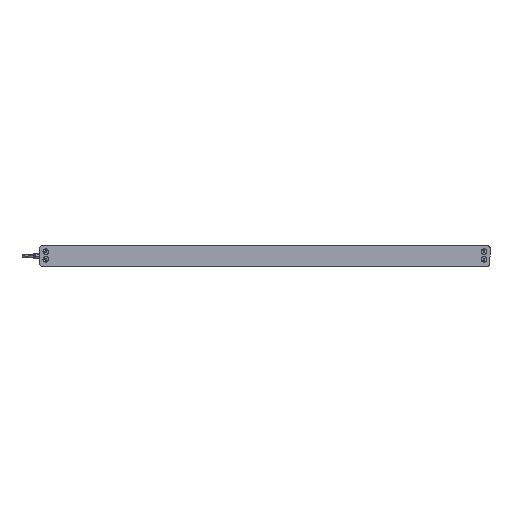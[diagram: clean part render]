
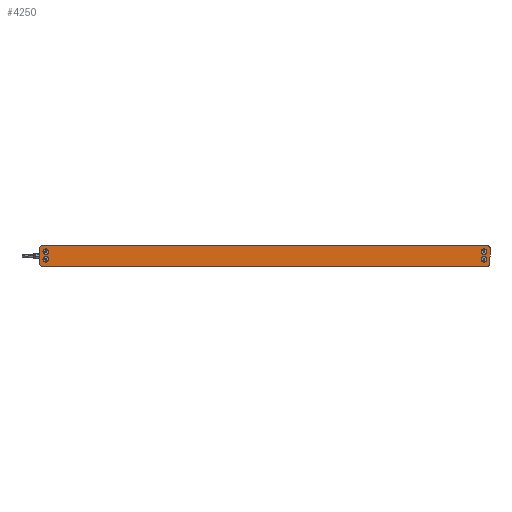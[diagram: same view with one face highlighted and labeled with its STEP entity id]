
A CAD part, left-side view. The second image highlights one B-rep face of the part: STEP entity #4250.
In plain terms, the highlighted planar face has unit normal (-1, 0, 0) as drawn and (0, 0, -1) by its records, which use the part's own axes.
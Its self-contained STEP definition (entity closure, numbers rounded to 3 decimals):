
#104 = CARTESIAN_POINT ( 'NONE',  ( -431.3, 8.5, 0. ) ) ;
#130 = AXIS2_PLACEMENT_3D ( 'NONE', #17774, #11665, #15936 ) ;
#801 = AXIS2_PLACEMENT_3D ( 'NONE', #14111, #3578, #6463 ) ;
#802 = DIRECTION ( 'NONE',  ( 0., 0., -1. ) ) ;
#873 = CARTESIAN_POINT ( 'NONE',  ( -439., 20., 0. ) ) ;
#874 = EDGE_CURVE ( 'NONE', #4305, #17773, #14058, .T. ) ;
#897 = FACE_OUTER_BOUND ( 'NONE', #10706, .T. ) ;
#949 = DIRECTION ( 'NONE',  ( -1., 0., 0. ) ) ;
#950 = EDGE_CURVE ( 'NONE', #10845, #1181, #2015, .T. ) ;
#1116 = CARTESIAN_POINT ( 'NONE',  ( 439., -16., 0. ) ) ;
#1132 = CARTESIAN_POINT ( 'NONE',  ( -443., 16., 0. ) ) ;
#1181 = VERTEX_POINT ( 'NONE', #17084 ) ;
#1705 = DIRECTION ( 'NONE',  ( -1., 0., 0. ) ) ;
#1820 = EDGE_CURVE ( 'NONE', #8204, #1889, #9347, .T. ) ;
#1889 = VERTEX_POINT ( 'NONE', #7958 ) ;
#2015 = CIRCLE ( 'NONE', #5812, 5.6 ) ;
#2286 = CARTESIAN_POINT ( 'NONE',  ( 439., 16., 0. ) ) ;
#2639 = DIRECTION ( 'NONE',  ( -1., 0., 0. ) ) ;
#2786 = AXIS2_PLACEMENT_3D ( 'NONE', #104, #15285, #1705 ) ;
#3223 = DIRECTION ( 'NONE',  ( 0., 0., -1. ) ) ;
#3259 = CIRCLE ( 'NONE', #11515, 5.6 ) ;
#3476 = EDGE_CURVE ( 'NONE', #13608, #6074, #9542, .T. ) ;
#3554 = DIRECTION ( 'NONE',  ( -1., 0., 0. ) ) ;
#3578 = DIRECTION ( 'NONE',  ( 0., 0., 1. ) ) ;
#3764 = FACE_BOUND ( 'NONE', #18179, .T. ) ;
#4237 = ORIENTED_EDGE ( 'NONE', *, *, #5062, .F. ) ;
#4250 = ADVANCED_FACE ( 'NONE', ( #11423, #17351, #3764, #8434, #897 ), #16074, .T. ) ;
#4305 = VERTEX_POINT ( 'NONE', #13382 ) ;
#4420 = AXIS2_PLACEMENT_3D ( 'NONE', #4824, #6310, #6216 ) ;
#4617 = LINE ( 'NONE', #15028, #18144 ) ;
#4807 = CARTESIAN_POINT ( 'NONE',  ( 431.3, -6.3, 0. ) ) ;
#4809 = VECTOR ( 'NONE', #8941, 1000. ) ;
#4824 = CARTESIAN_POINT ( 'NONE',  ( 431.3, 8.5, 0. ) ) ;
#4835 = EDGE_CURVE ( 'NONE', #1181, #10845, #7716, .T. ) ;
#5062 = EDGE_CURVE ( 'NONE', #14097, #9019, #13072, .T. ) ;
#5093 = EDGE_CURVE ( 'NONE', #1889, #14097, #15190, .T. ) ;
#5168 = EDGE_CURVE ( 'NONE', #18822, #5238, #15263, .T. ) ;
#5238 = VERTEX_POINT ( 'NONE', #9645 ) ;
#5424 = CARTESIAN_POINT ( 'NONE',  ( -439., 16., 0. ) ) ;
#5590 = CARTESIAN_POINT ( 'NONE',  ( 439., -20., 0. ) ) ;
#5684 = DIRECTION ( 'NONE',  ( 0., 0., -1. ) ) ;
#5710 = DIRECTION ( 'NONE',  ( 0., 0., 1. ) ) ;
#5749 = AXIS2_PLACEMENT_3D ( 'NONE', #1116, #7178, #13222 ) ;
#5812 = AXIS2_PLACEMENT_3D ( 'NONE', #9699, #15740, #6900 ) ;
#6015 = CARTESIAN_POINT ( 'NONE',  ( -439., 20., 0. ) ) ;
#6074 = VERTEX_POINT ( 'NONE', #1132 ) ;
#6109 = DIRECTION ( 'NONE',  ( -1., 0., 0. ) ) ;
#6156 = CIRCLE ( 'NONE', #11877, 5.6 ) ;
#6216 = DIRECTION ( 'NONE',  ( -1., 0., 0. ) ) ;
#6272 = DIRECTION ( 'NONE',  ( 0., 0., -1. ) ) ;
#6304 = CARTESIAN_POINT ( 'NONE',  ( -425.7, -6.3, 0. ) ) ;
#6310 = DIRECTION ( 'NONE',  ( 0., 0., -1. ) ) ;
#6463 = DIRECTION ( 'NONE',  ( -1., 0., 0. ) ) ;
#6665 = CIRCLE ( 'NONE', #4420, 5.6 ) ;
#6682 = EDGE_CURVE ( 'NONE', #9019, #10823, #8617, .T. ) ;
#6683 = VECTOR ( 'NONE', #6109, 1000. ) ;
#6689 = ORIENTED_EDGE ( 'NONE', *, *, #1820, .F. ) ;
#6852 = DIRECTION ( 'NONE',  ( -1., 0., 0. ) ) ;
#6900 = DIRECTION ( 'NONE',  ( -1., 0., 0. ) ) ;
#7115 = CIRCLE ( 'NONE', #130, 4. ) ;
#7178 = DIRECTION ( 'NONE',  ( 0., 0., 1. ) ) ;
#7243 = EDGE_LOOP ( 'NONE', ( #14292, #9364 ) ) ;
#7716 = CIRCLE ( 'NONE', #18781, 5.6 ) ;
#7958 = CARTESIAN_POINT ( 'NONE',  ( -439., -20., 0. ) ) ;
#8204 = VERTEX_POINT ( 'NONE', #8631 ) ;
#8235 = ORIENTED_EDGE ( 'NONE', *, *, #9704, .F. ) ;
#8281 = AXIS2_PLACEMENT_3D ( 'NONE', #5424, #5710, #2639 ) ;
#8434 = FACE_BOUND ( 'NONE', #13989, .T. ) ;
#8617 = LINE ( 'NONE', #14564, #18684 ) ;
#8631 = CARTESIAN_POINT ( 'NONE',  ( -443., -16., 0. ) ) ;
#8722 = EDGE_CURVE ( 'NONE', #19105, #15461, #6665, .T. ) ;
#8875 = CARTESIAN_POINT ( 'NONE',  ( 443., -16., 0. ) ) ;
#8941 = DIRECTION ( 'NONE',  ( 1., 0., 0. ) ) ;
#9019 = VERTEX_POINT ( 'NONE', #8875 ) ;
#9347 = CIRCLE ( 'NONE', #801, 4. ) ;
#9364 = ORIENTED_EDGE ( 'NONE', *, *, #8722, .F. ) ;
#9542 = CIRCLE ( 'NONE', #8281, 4. ) ;
#9572 = ORIENTED_EDGE ( 'NONE', *, *, #17350, .F. ) ;
#9645 = CARTESIAN_POINT ( 'NONE',  ( -425.7, 8.5, 0. ) ) ;
#9699 = CARTESIAN_POINT ( 'NONE',  ( -431.3, -6.3, 0. ) ) ;
#9704 = EDGE_CURVE ( 'NONE', #18497, #13608, #10710, .T. ) ;
#9744 = EDGE_LOOP ( 'NONE', ( #9810, #15785 ) ) ;
#9810 = ORIENTED_EDGE ( 'NONE', *, *, #12346, .F. ) ;
#9812 = CARTESIAN_POINT ( 'NONE',  ( 439., 20., 0. ) ) ;
#9881 = DIRECTION ( 'NONE',  ( -1., 0., 0. ) ) ;
#10000 = DIRECTION ( 'NONE',  ( 0., 0., -1. ) ) ;
#10458 = ORIENTED_EDGE ( 'NONE', *, *, #950, .F. ) ;
#10484 = CARTESIAN_POINT ( 'NONE',  ( 425.7, -6.3, 0. ) ) ;
#10706 = EDGE_LOOP ( 'NONE', ( #16690, #19361, #4237, #15974, #6689, #19496, #14880, #8235 ) ) ;
#10710 = LINE ( 'NONE', #6015, #6683 ) ;
#10823 = VERTEX_POINT ( 'NONE', #12172 ) ;
#10845 = VERTEX_POINT ( 'NONE', #6304 ) ;
#11172 = CARTESIAN_POINT ( 'NONE',  ( -436.9, 8.5, 0. ) ) ;
#11423 = FACE_BOUND ( 'NONE', #7243, .T. ) ;
#11515 = AXIS2_PLACEMENT_3D ( 'NONE', #14730, #10000, #3554 ) ;
#11665 = DIRECTION ( 'NONE',  ( 0., 0., 1. ) ) ;
#11751 = CARTESIAN_POINT ( 'NONE',  ( -431.3, -6.3, 0. ) ) ;
#11877 = AXIS2_PLACEMENT_3D ( 'NONE', #19055, #18774, #9881 ) ;
#12158 = DIRECTION ( 'NONE',  ( 0., -1., 0. ) ) ;
#12172 = CARTESIAN_POINT ( 'NONE',  ( 443., 16., 0. ) ) ;
#12346 = EDGE_CURVE ( 'NONE', #17773, #4305, #3259, .T. ) ;
#13072 = CIRCLE ( 'NONE', #5749, 4. ) ;
#13222 = DIRECTION ( 'NONE',  ( 1., 0., 0. ) ) ;
#13382 = CARTESIAN_POINT ( 'NONE',  ( 436.9, -6.3, 0. ) ) ;
#13608 = VERTEX_POINT ( 'NONE', #873 ) ;
#13893 = EDGE_CURVE ( 'NONE', #6074, #8204, #4617, .T. ) ;
#13989 = EDGE_LOOP ( 'NONE', ( #15724, #10458 ) ) ;
#14058 = CIRCLE ( 'NONE', #17220, 5.6 ) ;
#14097 = VERTEX_POINT ( 'NONE', #5590 ) ;
#14098 = AXIS2_PLACEMENT_3D ( 'NONE', #19251, #5684, #949 ) ;
#14111 = CARTESIAN_POINT ( 'NONE',  ( -439., -16., 0. ) ) ;
#14292 = ORIENTED_EDGE ( 'NONE', *, *, #14862, .F. ) ;
#14564 = CARTESIAN_POINT ( 'NONE',  ( 443., -16., 0. ) ) ;
#14730 = CARTESIAN_POINT ( 'NONE',  ( 431.3, -6.3, 0. ) ) ;
#14862 = EDGE_CURVE ( 'NONE', #15461, #19105, #15991, .T. ) ;
#14880 = ORIENTED_EDGE ( 'NONE', *, *, #3476, .F. ) ;
#14887 = EDGE_CURVE ( 'NONE', #10823, #18497, #7115, .T. ) ;
#15028 = CARTESIAN_POINT ( 'NONE',  ( -443., -16., 0. ) ) ;
#15190 = LINE ( 'NONE', #16680, #4809 ) ;
#15263 = CIRCLE ( 'NONE', #2786, 5.6 ) ;
#15285 = DIRECTION ( 'NONE',  ( 0., 0., -1. ) ) ;
#15328 = DIRECTION ( 'NONE',  ( -1., 0., 0. ) ) ;
#15461 = VERTEX_POINT ( 'NONE', #15775 ) ;
#15724 = ORIENTED_EDGE ( 'NONE', *, *, #4835, .F. ) ;
#15740 = DIRECTION ( 'NONE',  ( 0., 0., -1. ) ) ;
#15775 = CARTESIAN_POINT ( 'NONE',  ( 425.7, 8.5, 0. ) ) ;
#15785 = ORIENTED_EDGE ( 'NONE', *, *, #874, .F. ) ;
#15936 = DIRECTION ( 'NONE',  ( -1., 0., 0. ) ) ;
#15974 = ORIENTED_EDGE ( 'NONE', *, *, #5093, .F. ) ;
#15991 = CIRCLE ( 'NONE', #14098, 5.6 ) ;
#16074 = PLANE ( 'NONE',  #17420 ) ;
#16600 = CARTESIAN_POINT ( 'NONE',  ( 436.9, 8.5, 0. ) ) ;
#16680 = CARTESIAN_POINT ( 'NONE',  ( -439., -20., 0. ) ) ;
#16690 = ORIENTED_EDGE ( 'NONE', *, *, #14887, .F. ) ;
#17083 = ORIENTED_EDGE ( 'NONE', *, *, #5168, .F. ) ;
#17084 = CARTESIAN_POINT ( 'NONE',  ( -436.9, -6.3, 0. ) ) ;
#17220 = AXIS2_PLACEMENT_3D ( 'NONE', #4807, #3223, #15328 ) ;
#17350 = EDGE_CURVE ( 'NONE', #5238, #18822, #6156, .T. ) ;
#17351 = FACE_BOUND ( 'NONE', #9744, .T. ) ;
#17420 = AXIS2_PLACEMENT_3D ( 'NONE', #2286, #802, #6852 ) ;
#17773 = VERTEX_POINT ( 'NONE', #10484 ) ;
#17774 = CARTESIAN_POINT ( 'NONE',  ( 439., 16., 0. ) ) ;
#17818 = DIRECTION ( 'NONE',  ( 0., 1., 0. ) ) ;
#18144 = VECTOR ( 'NONE', #12158, 1000. ) ;
#18179 = EDGE_LOOP ( 'NONE', ( #17083, #9572 ) ) ;
#18271 = DIRECTION ( 'NONE',  ( -1., 0., 0. ) ) ;
#18497 = VERTEX_POINT ( 'NONE', #9812 ) ;
#18684 = VECTOR ( 'NONE', #17818, 1000. ) ;
#18774 = DIRECTION ( 'NONE',  ( 0., 0., -1. ) ) ;
#18781 = AXIS2_PLACEMENT_3D ( 'NONE', #11751, #6272, #18271 ) ;
#18822 = VERTEX_POINT ( 'NONE', #11172 ) ;
#19055 = CARTESIAN_POINT ( 'NONE',  ( -431.3, 8.5, 0. ) ) ;
#19105 = VERTEX_POINT ( 'NONE', #16600 ) ;
#19251 = CARTESIAN_POINT ( 'NONE',  ( 431.3, 8.5, 0. ) ) ;
#19361 = ORIENTED_EDGE ( 'NONE', *, *, #6682, .F. ) ;
#19496 = ORIENTED_EDGE ( 'NONE', *, *, #13893, .F. ) ;
